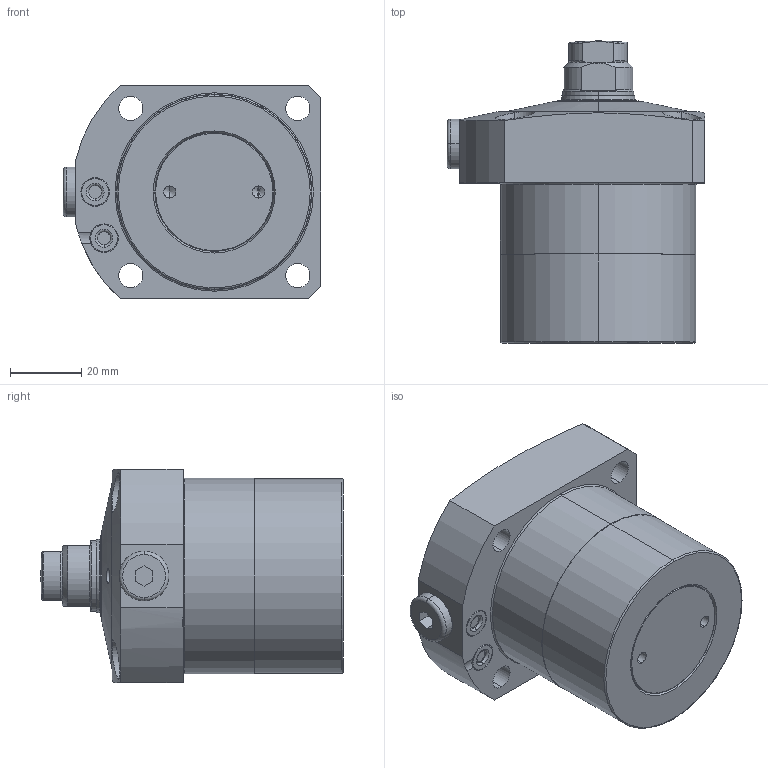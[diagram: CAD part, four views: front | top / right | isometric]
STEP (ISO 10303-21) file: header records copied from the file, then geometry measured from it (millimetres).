
FILE_DESCRIPTION(/* description */ (''),/* implementation_level */ '2;1');
FILE_NAME(/* name */ 'KFSC55.stp',/* time_stamp */ '2026-02-04T15:08:24+08:00',/* author */ (''),/* organization */ (''),/* preprocessor_version */ 'ST-DEVELOPER v16.7',/* originating_system */ 'SIEMENS PLM Software NX 12.0',/* authorisation */ '');
FILE_SCHEMA (('AUTOMOTIVE_DESIGN { 1 0 10303 214 3 1 1 1 }'));
Length unit declared in the file: millimetre
Products named in the file (8): XLC-M12_contactbolt; XLC-M12_o-ring; KFSC55-04; KFSC55-01; P5-3; KFSC55-02; KFSC55-03; LC0553-Cx_step
Assembly tree (8 placements, depth 3):
  LC0553-Cx_step
    KFSC55-03
      XLC-M12_o-ring
      XLC-M12_contactbolt
    KFSC55-02
    P5-3  x2
    KFSC55-01
    KFSC55-04
Bounding box: 72.5 x 85 x 60 mm (x, y, z)
Volume: 186527.8 mm3; surface area: 28001 mm2
Topology: 7 solids, 7 shells, 236 faces, 529 edges, 319 vertices
Faces by surface type: cylinder 81, torus 60, plane 52, cone 41, sphere 2
Entity records: 6846 total; most frequent: CARTESIAN_POINT 1428, DIRECTION 1216, ORIENTED_EDGE 994, AXIS2_PLACEMENT_3D 529, EDGE_CURVE 497, VERTEX_POINT 305, CIRCLE 296, EDGE_LOOP 256
